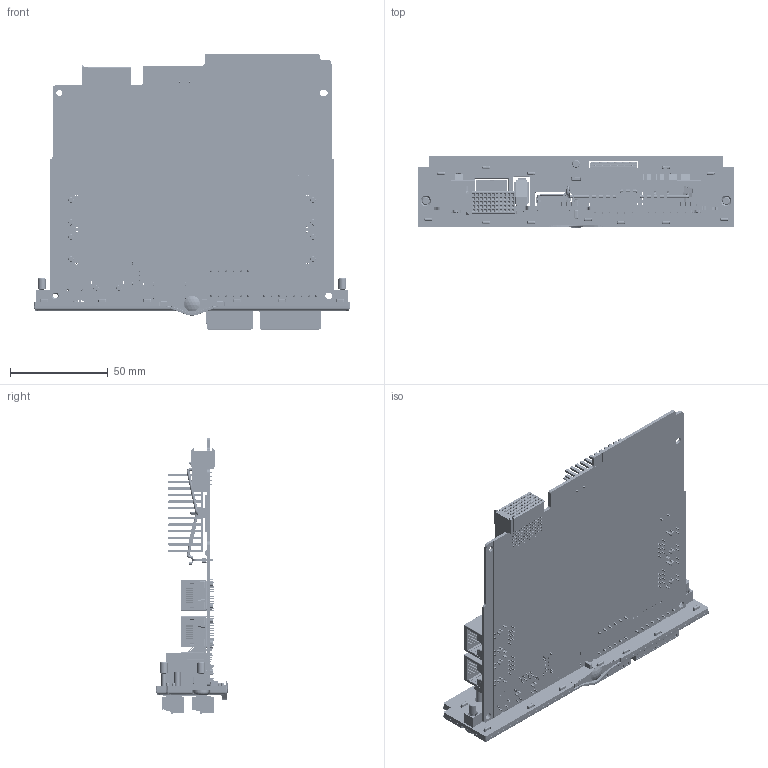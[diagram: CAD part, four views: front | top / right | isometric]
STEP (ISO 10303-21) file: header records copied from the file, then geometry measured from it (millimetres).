
FILE_DESCRIPTION(/* description */ (''),/* implementation_level */ '2;1');
FILE_NAME(/* name */ 'PCM3.3_3D CAD_20250228.stp',/* time_stamp */ '2025-02-28T10:43:10+01:00',/* author */ ('DSP'),/* organization */ (''),/* preprocessor_version */ 'ST-DEVELOPER v19.2',/* originating_system */ 'Autodesk Inventor 2023',/* authorisation */ '');
FILE_SCHEMA (('AUTOMOTIVE_DESIGN { 1 0 10303 214 3 1 1 }'));
Products named in the file (1): PCM3.3_3D CAD_SMPL_20250228
Bounding box: 162 x 37.1 x 141.5 mm (x, y, z)
Volume: 91726.8 mm3; surface area: 118377.5 mm2
Topology: 2 solids, 2 shells, 13813 faces, 38061 edges, 24242 vertices
Faces by surface type: plane 9656, cylinder 3213, bspline 330, cone 290, torus 182, sphere 142
Full cylindrical faces by diameter (mm): 0.296 x3, 0.457 x2, 0.6 x55, 0.7 x9, 0.8 x3, 0.9 x40, 0.97 x4, 1 x24, 1.168 x10, 1.2 x24, 1.25 x8, 1.422 x10, 1.5 x10, 1.6 x10, 2 x20, 2.3 x1, 2.459 x2, 2.5 x3, 2.8 x20, 2.9 x20, 2.997 x5, 3 x3, 3.05 x1, 3.242 x2, 3.3 x1, 3.5 x1, 3.7 x1, 4 x3, 4.4 x2, 4.5 x5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
Entity records: 473706 total; most frequent: CARTESIAN_POINT 104919, ORIENTED_EDGE 75702, DIRECTION 71216, EDGE_CURVE 37851, LINE 29164, VECTOR 29164, VERTEX_POINT 24242, AXIS2_PLACEMENT_3D 21026
